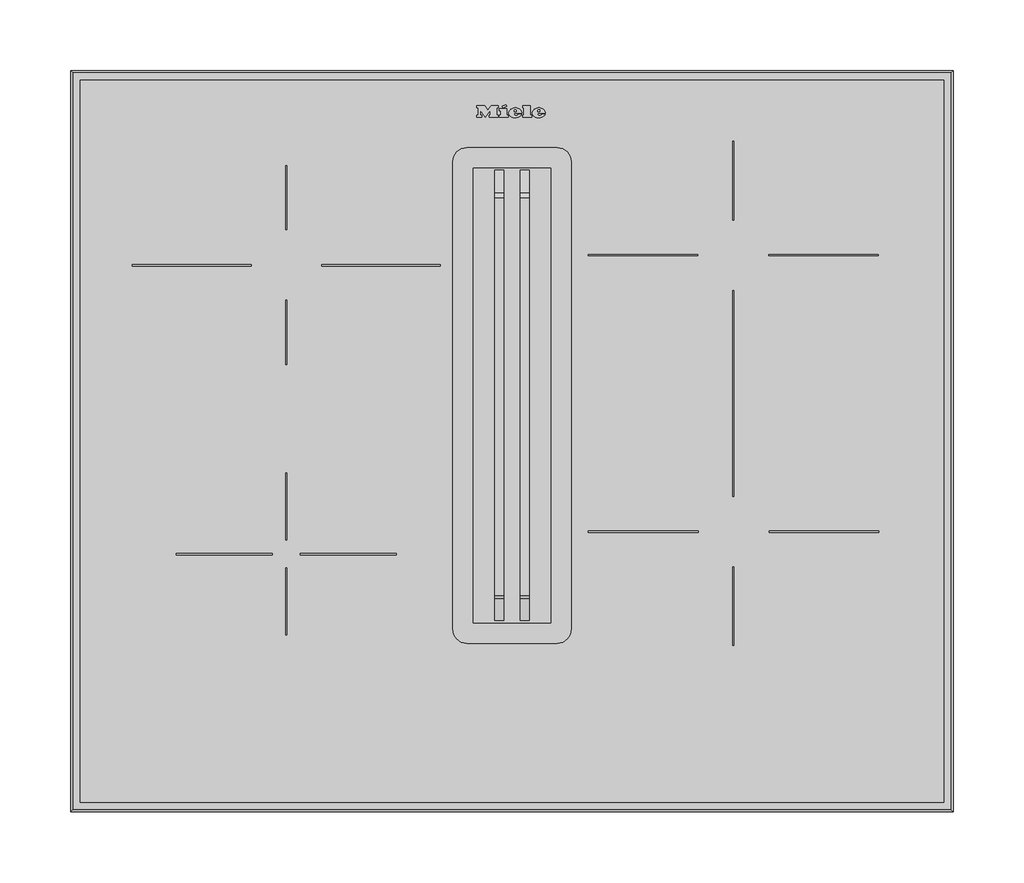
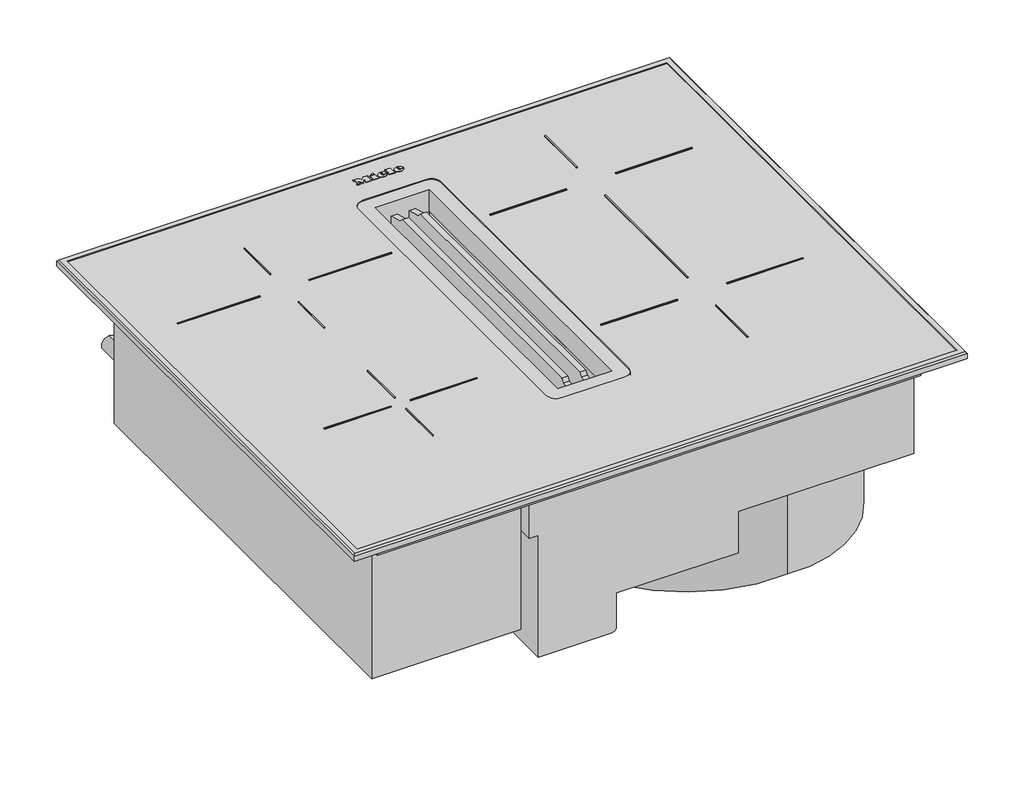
# Not in any storey: 1 proxy.
"""IFC4 building model written with IfcOpenShell, lengths in millimetres."""

from ifc_helpers import new_model, si_unit, origin, place, context, project, spatial, transform, mapped, element, save
from components import specialty_equipment_03b866f5

model = new_model("IFC4")

# Units and contexts
model_context = context("Model", 3, world=origin())
ifc_project = project(units=[si_unit("LENGTHUNIT", "METRE", prefix="MILLI")], contexts=[model_context])

# Site, building
site = spatial("IfcSite", under=ifc_project)
building = spatial("IfcBuilding", under=site)

# Proxy
placement = place(None, origin())
specialty_equipment_shape = specialty_equipment_03b866f5(model_context)
element("IfcBuildingElementProxy", 1, Name="13095120_D_KMDA5649FR : 26D56496_D_13095120_KMDA5649FR", ObjectType="13095120_D_KMDA5649FR : 26D56496_D_13095120_KMDA5649FR", at=placement, inside=building, context=model_context, shape_type="MappedRepresentation", body=[
    mapped(specialty_equipment_shape, transform((0.0, 0.0, 0.0), x_axis=(1.0, 0.0, 0.0), y_axis=(0.0, 1.0, 0.0), z_axis=(0.0, 0.0, 1.0))),
])

save(model, "model.ifc")
